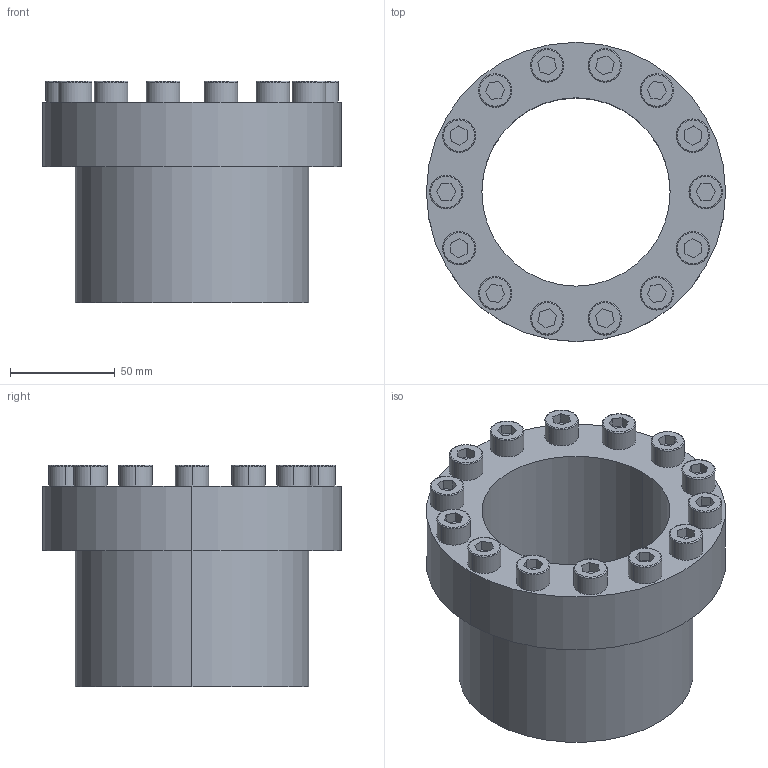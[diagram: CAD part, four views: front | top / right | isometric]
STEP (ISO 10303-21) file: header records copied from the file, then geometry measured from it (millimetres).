
FILE_DESCRIPTION (( 'STEP AP203' ), '1' );
FILE_NAME ('PL-C 90-112.STEP', '2021-10-22T08:46:58', ( '' ), ( '' ), 'SwSTEP 2.0', 'SolidWorks 2018', '' );
FILE_SCHEMA (( 'CONFIG_CONTROL_DESIGN' ));
Length unit declared in the file: millimetre
Products named in the file (1): PL-C 90-112
Bounding box: 143 x 143 x 106 mm (x, y, z)
Volume: 549482.1 mm3; surface area: 92122.2 mm2
Topology: 1 solids, 1 shells, 177 faces, 410 edges, 264 vertices
Faces by surface type: plane 115, cylinder 34, torus 28
Entity records: 5085 total; most frequent: DIRECTION 890, CARTESIAN_POINT 852, ORIENTED_EDGE 820, EDGE_CURVE 410, AXIS2_PLACEMENT_3D 302, VECTOR 286, LINE 286, VERTEX_POINT 264
